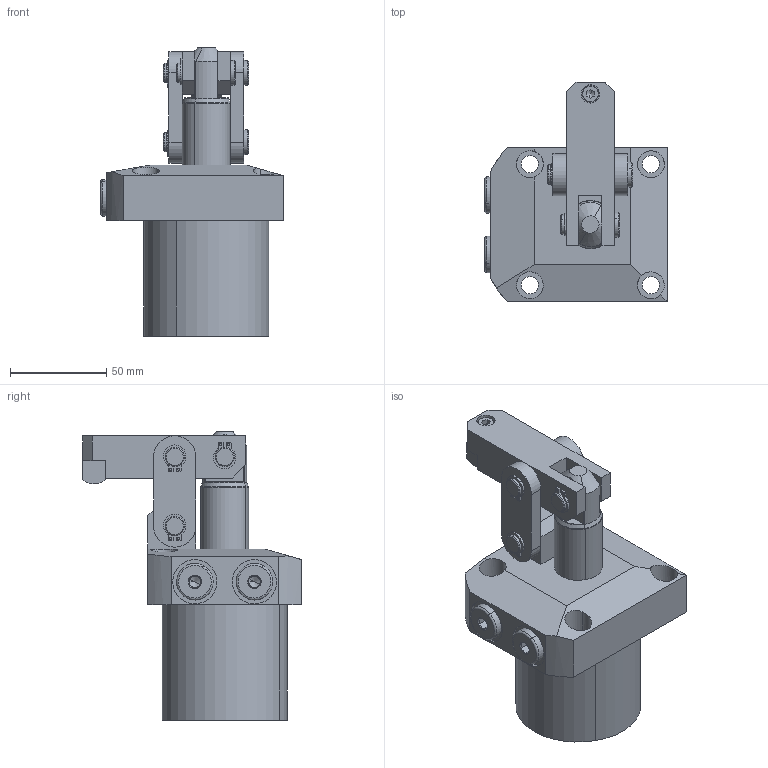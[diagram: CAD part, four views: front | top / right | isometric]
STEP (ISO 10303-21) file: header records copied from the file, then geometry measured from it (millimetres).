
FILE_DESCRIPTION(('CATIA V5 STEP Exchange'),'2;1');
FILE_NAME('\\Kjf-102\KJF_TC\Hydraulic_Clamp\Standard\HINGE_CLAMP\HGC-4004\배포도면\HGC-4005G-LH_C.stp','2026-03-17T06:58:55+00:00',('none'),('none'),'CATIA Version 5 Release 19 SP 9 (IN-10)','CATIA V5 STEP AP203','none');
FILE_SCHEMA(('CONFIG_CONTROL_DESIGN'));
Length unit declared in the file: millimetre
Products named in the file (1): HGC-4005G-LH_C
Assembly tree (16 placements, depth 2):
  HGC-4005G-LH_C
    #58
    #2257
    #2856
    #3031
    #3852  x2
    #4172
    #4437
    #4906  x2
    #5390
    #6282  x3
    #6942  x2
Bounding box: 95 x 114 x 150 mm (x, y, z)
Volume: 430708.1 mm3; surface area: 96167.7 mm2
Topology: 16 solids, 16 shells, 414 faces, 964 edges, 615 vertices
Faces by surface type: cylinder 183, plane 157, cone 50, torus 24
Entity records: 8305 total; most frequent: CARTESIAN_POINT 1714, ORIENTED_EDGE 1348, DIRECTION 1112, EDGE_CURVE 674, AXIS2_PLACEMENT_3D 560, VERTEX_POINT 434, EDGE_LOOP 358, CIRCLE 321
